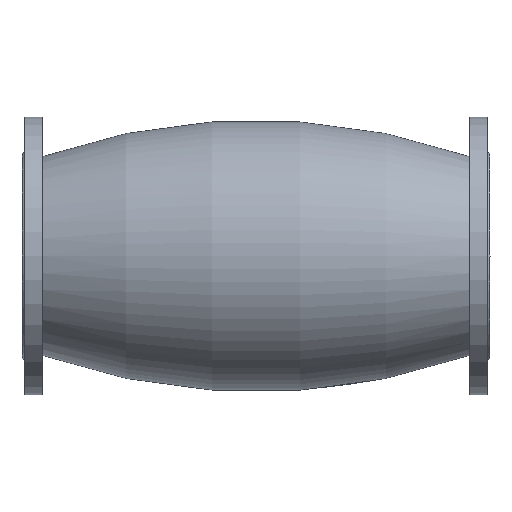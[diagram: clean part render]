
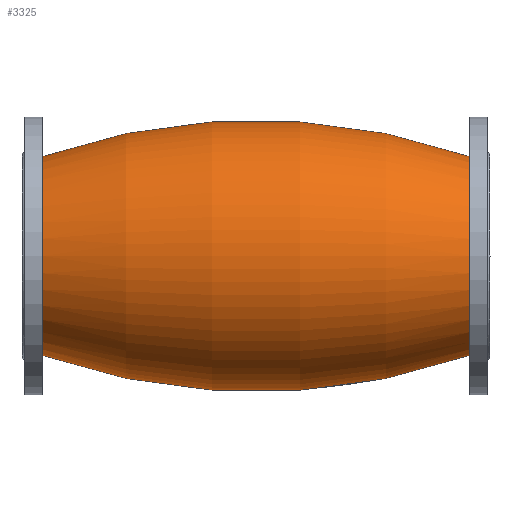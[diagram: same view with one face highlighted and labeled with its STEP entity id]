
A CAD part, front view. The second image highlights one B-rep face of the part: STEP entity #3325.
In plain terms, the highlighted toroidal (fillet/blend) face has major radius 528.398 mm and minor radius 667.465 mm.
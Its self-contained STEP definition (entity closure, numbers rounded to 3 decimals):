
#54 = VERTEX_POINT ( 'NONE', #2056 ) ;
#165 = AXIS2_PLACEMENT_3D ( 'NONE', #5974, #9305, #13857 ) ;
#596 = ORIENTED_EDGE ( 'NONE', *, *, #13826, .T. ) ;
#946 = EDGE_CURVE ( 'NONE', #4669, #9279, #11988, .T. ) ;
#1161 = DIRECTION ( 'NONE',  ( 0., 1., 0. ) ) ;
#1310 = EDGE_LOOP ( 'NONE', ( #11113, #596, #4462, #10730 ) ) ;
#1618 = CARTESIAN_POINT ( 'NONE',  ( 459.384, 0., 101.983 ) ) ;
#1773 = AXIS2_PLACEMENT_3D ( 'NONE', #2101, #5346, #9692 ) ;
#2056 = CARTESIAN_POINT ( 'NONE',  ( 20.616, 0., 101.983 ) ) ;
#2101 = CARTESIAN_POINT ( 'NONE',  ( 20.616, 0., 0. ) ) ;
#2476 = CIRCLE ( 'NONE', #165, 667.465 ) ;
#2893 = AXIS2_PLACEMENT_3D ( 'NONE', #8911, #1161, #3404 ) ;
#3325 = ADVANCED_FACE ( 'NONE', ( #11834 ), #13167, .T. ) ;
#3404 = DIRECTION ( 'NONE',  ( 0., 0., 1. ) ) ;
#3877 = DIRECTION ( 'NONE',  ( 0., 0., -1. ) ) ;
#4361 = AXIS2_PLACEMENT_3D ( 'NONE', #12456, #10518, #4779 ) ;
#4462 = ORIENTED_EDGE ( 'NONE', *, *, #11454, .T. ) ;
#4525 = CIRCLE ( 'NONE', #1773, 101.983 ) ;
#4669 = VERTEX_POINT ( 'NONE', #12955 ) ;
#4779 = DIRECTION ( 'NONE',  ( 0., 0., 1. ) ) ;
#4807 = EDGE_CURVE ( 'NONE', #4669, #12398, #8205, .T. ) ;
#5346 = DIRECTION ( 'NONE',  ( 1., 0., 0. ) ) ;
#5974 = CARTESIAN_POINT ( 'NONE',  ( 240., 0., -528.398 ) ) ;
#8205 = CIRCLE ( 'NONE', #2893, 667.465 ) ;
#8911 = CARTESIAN_POINT ( 'NONE',  ( 240., 0., 528.398 ) ) ;
#9248 = AXIS2_PLACEMENT_3D ( 'NONE', #9612, #13950, #3877 ) ;
#9279 = VERTEX_POINT ( 'NONE', #1618 ) ;
#9305 = DIRECTION ( 'NONE',  ( 0., -1., 0. ) ) ;
#9612 = CARTESIAN_POINT ( 'NONE',  ( 240., 0., 0. ) ) ;
#9692 = DIRECTION ( 'NONE',  ( 0., 0., 1. ) ) ;
#10518 = DIRECTION ( 'NONE',  ( -1., 0., 0. ) ) ;
#10730 = ORIENTED_EDGE ( 'NONE', *, *, #4807, .F. ) ;
#11113 = ORIENTED_EDGE ( 'NONE', *, *, #946, .T. ) ;
#11454 = EDGE_CURVE ( 'NONE', #54, #12398, #4525, .T. ) ;
#11834 = FACE_OUTER_BOUND ( 'NONE', #1310, .T. ) ;
#11988 = CIRCLE ( 'NONE', #4361, 101.983 ) ;
#12398 = VERTEX_POINT ( 'NONE', #14302 ) ;
#12456 = CARTESIAN_POINT ( 'NONE',  ( 459.384, 0., 0. ) ) ;
#12955 = CARTESIAN_POINT ( 'NONE',  ( 459.384, 0., -101.983 ) ) ;
#13167 = TOROIDAL_SURFACE ( 'NONE', #9248, -528.398, 667.465 ) ;
#13826 = EDGE_CURVE ( 'NONE', #9279, #54, #2476, .T. ) ;
#13857 = DIRECTION ( 'NONE',  ( 0., 0., -1. ) ) ;
#13950 = DIRECTION ( 'NONE',  ( -1., 0., 0. ) ) ;
#14302 = CARTESIAN_POINT ( 'NONE',  ( 20.616, 0., -101.983 ) ) ;
